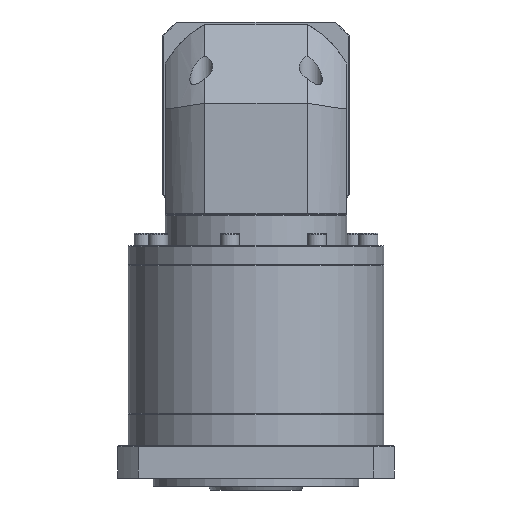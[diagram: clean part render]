
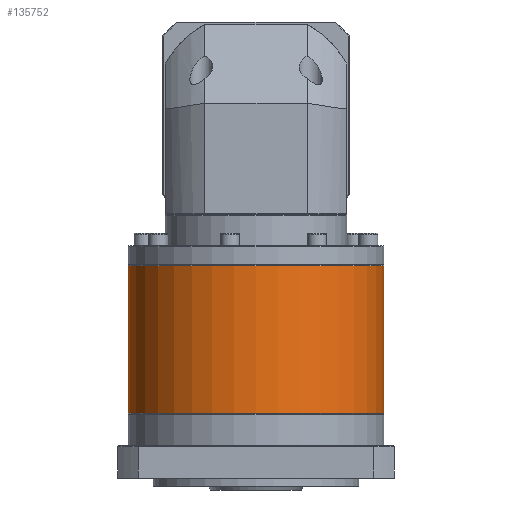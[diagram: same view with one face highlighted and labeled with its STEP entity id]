
A CAD part, front view. The second image highlights one B-rep face of the part: STEP entity #135752.
In plain terms, the highlighted cylindrical face has radius 81 mm (diameter 162 mm), a partial arc.
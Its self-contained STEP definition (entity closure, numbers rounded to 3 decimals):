
#4382 = VERTEX_POINT ( 'NONE', #128968 ) ;
#8186 = CARTESIAN_POINT ( 'NONE',  ( -92.323, 8.449, 337.276 ) ) ;
#14016 = ORIENTED_EDGE ( 'NONE', *, *, #103625, .T. ) ;
#20894 = VERTEX_POINT ( 'NONE', #71745 ) ;
#23236 = CARTESIAN_POINT ( 'NONE',  ( -92.323, 8.449, 243.276 ) ) ;
#24213 = EDGE_LOOP ( 'NONE', ( #87204, #97094, #32256, #14016 ) ) ;
#28623 = DIRECTION ( 'NONE',  ( -1., 0., 0. ) ) ;
#32256 = ORIENTED_EDGE ( 'NONE', *, *, #94561, .T. ) ;
#32838 = CARTESIAN_POINT ( 'NONE',  ( -11.323, 8.449, 243.276 ) ) ;
#33479 = VERTEX_POINT ( 'NONE', #56403 ) ;
#40624 = CIRCLE ( 'NONE', #97239, 81. ) ;
#43063 = DIRECTION ( 'NONE',  ( 0., 0., -1. ) ) ;
#53191 = CYLINDRICAL_SURFACE ( 'NONE', #61648, 81. ) ;
#53305 = CARTESIAN_POINT ( 'NONE',  ( -173.323, 8.449, 337.276 ) ) ;
#54172 = VERTEX_POINT ( 'NONE', #32838 ) ;
#56403 = CARTESIAN_POINT ( 'NONE',  ( -11.323, 8.449, 336.776 ) ) ;
#60006 = CARTESIAN_POINT ( 'NONE',  ( -92.323, 8.449, 336.776 ) ) ;
#60805 = DIRECTION ( 'NONE',  ( 0., 0., -1. ) ) ;
#61326 = VECTOR ( 'NONE', #43063, 1000. ) ;
#61648 = AXIS2_PLACEMENT_3D ( 'NONE', #8186, #60805, #71840 ) ;
#71745 = CARTESIAN_POINT ( 'NONE',  ( -173.323, 8.449, 243.276 ) ) ;
#71840 = DIRECTION ( 'NONE',  ( -1., 0., 0. ) ) ;
#72817 = EDGE_CURVE ( 'NONE', #33479, #54172, #95959, .T. ) ;
#84797 = FACE_OUTER_BOUND ( 'NONE', #24213, .T. ) ;
#87204 = ORIENTED_EDGE ( 'NONE', *, *, #72817, .F. ) ;
#94561 = EDGE_CURVE ( 'NONE', #4382, #20894, #130902, .T. ) ;
#95959 = LINE ( 'NONE', #109098, #135675 ) ;
#97094 = ORIENTED_EDGE ( 'NONE', *, *, #106843, .T. ) ;
#97239 = AXIS2_PLACEMENT_3D ( 'NONE', #23236, #129513, #98962 ) ;
#98962 = DIRECTION ( 'NONE',  ( -1., 0., 0. ) ) ;
#103625 = EDGE_CURVE ( 'NONE', #20894, #54172, #40624, .T. ) ;
#105867 = AXIS2_PLACEMENT_3D ( 'NONE', #60006, #134079, #28623 ) ;
#106843 = EDGE_CURVE ( 'NONE', #33479, #4382, #133223, .T. ) ;
#109098 = CARTESIAN_POINT ( 'NONE',  ( -11.323, 8.449, 337.276 ) ) ;
#119684 = DIRECTION ( 'NONE',  ( 0., 0., -1. ) ) ;
#128968 = CARTESIAN_POINT ( 'NONE',  ( -173.323, 8.449, 336.776 ) ) ;
#129513 = DIRECTION ( 'NONE',  ( 0., 0., 1. ) ) ;
#130902 = LINE ( 'NONE', #53305, #61326 ) ;
#133223 = CIRCLE ( 'NONE', #105867, 81. ) ;
#134079 = DIRECTION ( 'NONE',  ( 0., 0., -1. ) ) ;
#135675 = VECTOR ( 'NONE', #119684, 1000. ) ;
#135752 = ADVANCED_FACE ( 'NONE', ( #84797 ), #53191, .T. ) ;
